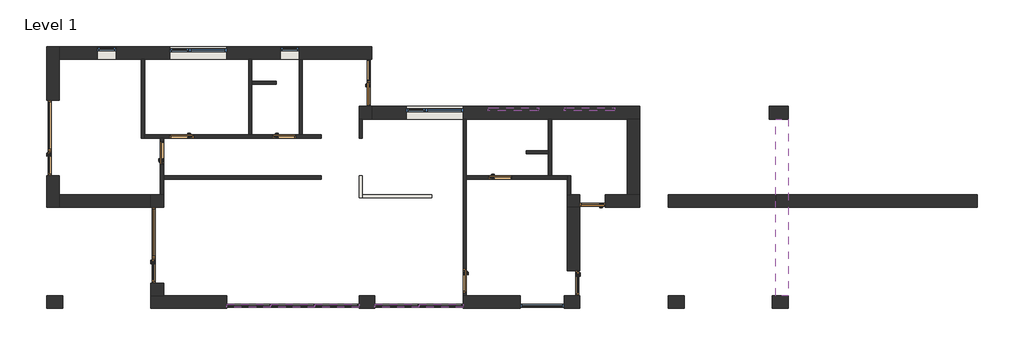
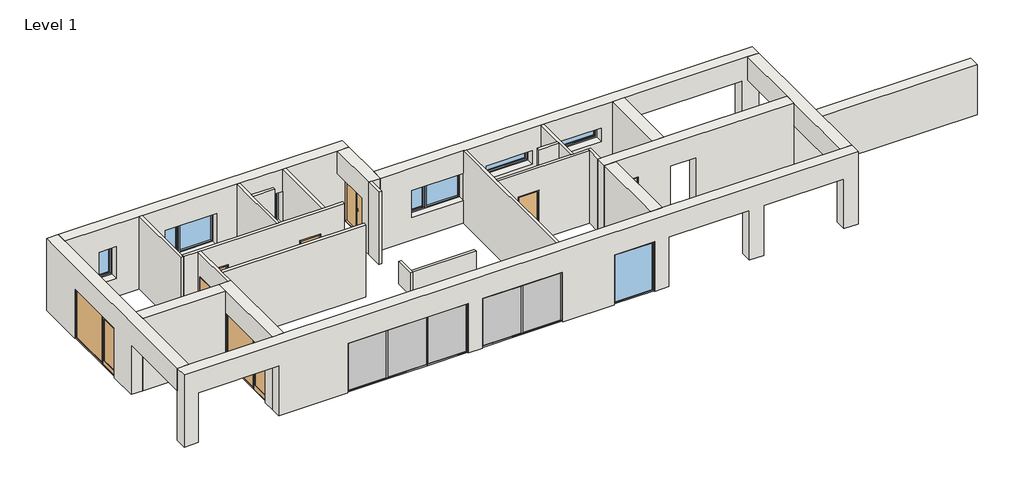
# One storey: 27 walls, 17 members, 10 doors, 7 windows, 5 plates.
"""IFC4 building model written with IfcOpenShell, lengths in millimetres."""

from ifc_helpers import new_model, si_unit, origin, origin_with_axes, place, context, project, spatial, polyline, outline, extrude, faceted_brep, transform, mapped, element, save
from components import door_1800x2200_mm_7a9b0269, ext_door_window_assembly_glass_2880x2200_mm_ebeafb6b, ext_single_flush_out_glass_960x2200_mm_f4f0ea2b, ext_single_flush1_960x2200_mm_7c25dc53, int_single_flush1_900x2200_mm_083ae047, int_single_flush1_900x2200_mm_924e3177, rectangular_mullion_exterior_50x115mm_b31c03e9, rectangular_mullion_exterior_50x115mm_eaa21abb, rectangular_mullion_exterior_50x115mm_593a1a29, system_panel_exterior_glass_22mm_baca3ab9, system_panel_exterior_glass_22mm_266c4f93, fixed_1680x2200_mm_e3bfc0e5, single_light_top_hinged_1920x600_dd11e4f9, single_light_720x1400_mm_50d61ae6, window_assembly_individual_2160x1200_mm_f898fd7d, window_assembly_individual_2160x1400_mm_6f070fa8

model = new_model("IFC4")

# Units and contexts
model_context = context("Model", 3, world=origin())
ifc_project = project(units=[si_unit("LENGTHUNIT", "METRE", prefix="MILLI")], contexts=[model_context])

# Site, building, storey
site = spatial("IfcSite", under=ifc_project)
building = spatial("IfcBuilding", under=site)
storey = spatial("IfcBuildingStorey", under=building, Name="Level 1", Elevation=0.0)

# Doors
placement = place(None, origin())
door_1800x2200_mm_shape = door_1800x2200_mm_7a9b0269(model_context)
element("IfcDoor", 1, ObjectType="Ext. Door inw. Window Assembly : 1800x2200 mm", at=placement, inside=storey, context=model_context, shape_type="MappedRepresentation", body=[
    mapped(door_1800x2200_mm_shape, transform((12120.0, 8580.0, 0.0), x_axis=(0.0, -1.0, 0.0), y_axis=(1.0, 0.0, 0.0), z_axis=(0.0, 0.0, 1.0))),
])
ext_door_window_assembly_glass_2880x2200_mm_shape = ext_door_window_assembly_glass_2880x2200_mm_ebeafb6b(model_context)
element("IfcDoor", 2, ObjectType="Ext. Door Window Assembly - Glass : 2880x2200 mm", at=placement, inside=storey, context=model_context, shape_type="MappedRepresentation", body=[
    mapped(ext_door_window_assembly_glass_2880x2200_mm_shape, transform((4200.0, 2400.0, 0.0), x_axis=(0.0, -1.0, 0.0), y_axis=(1.0, 0.0, 0.0), z_axis=(0.0, 0.0, 1.0))),
])
element("IfcDoor", 3, ObjectType="Ext. Door Window Assembly - Glass : 2880x2200 mm", at=placement, inside=storey, context=model_context, shape_type="MappedRepresentation", body=[
    mapped(ext_door_window_assembly_glass_2880x2200_mm_shape, transform((240.0, 6480.0, 0.0), x_axis=(0.0, -1.0, 0.0), y_axis=(1.0, 0.0, 0.0), z_axis=(0.0, 0.0, 1.0))),
])
ext_single_flush_out_glass_960x2200_mm_shape = ext_single_flush_out_glass_960x2200_mm_f4f0ea2b(model_context)
element("IfcDoor", 4, ObjectType="Ext. Single-Flush out - Glass : 960x2200 mm", at=placement, inside=storey, context=model_context, shape_type="MappedRepresentation", body=[
    mapped(ext_single_flush_out_glass_960x2200_mm_shape, transform((20040.0, 960.0, 0.0), x_axis=(0.0, -1.0, 0.0), y_axis=(1.0, 0.0, 0.0), z_axis=(0.0, 0.0, 1.0))),
])
ext_single_flush1_960x2200_mm_shape = ext_single_flush1_960x2200_mm_7c25dc53(model_context)
element("IfcDoor", 5, ObjectType="Ext. Single-Flush1 : 960x2200 mm", at=placement, inside=storey, context=model_context, shape_type="MappedRepresentation", body=[
    mapped(ext_single_flush1_960x2200_mm_shape, transform((20760.0, 4080.0, 0.0), x_axis=(-1.0, 0.0, 0.0), y_axis=(0.0, -1.0, 0.0), z_axis=(0.0, 0.0, 1.0))),
])
int_single_flush1_900x2200_mm_shape = int_single_flush1_900x2200_mm_083ae047(model_context)
element("IfcDoor", 6, ObjectType="Int. Single-Flush1 : 900x2200 mm", at=placement, inside=storey, context=model_context, shape_type="MappedRepresentation", body=[
    mapped(int_single_flush1_900x2200_mm_shape, transform((4380.0, 5910.0, 0.0), x_axis=(0.0, 1.0, 0.0), y_axis=(-1.0, 0.0, 0.0), z_axis=(0.0, 0.0, 1.0))),
])
element("IfcDoor", 7, ObjectType="Int. Single-Flush1 : 900x2200 mm", at=placement, inside=storey, context=model_context, shape_type="MappedRepresentation", body=[
    mapped(int_single_flush1_900x2200_mm_shape, transform((9030.0, 6540.0, 0.0), x_axis=(1.0, 0.0, 0.0), y_axis=(0.0, 1.0, 0.0), z_axis=(0.0, 0.0, 1.0))),
])
element("IfcDoor", 8, ObjectType="Int. Single-Flush1 : 900x2200 mm", at=placement, inside=storey, context=model_context, shape_type="MappedRepresentation", body=[
    mapped(int_single_flush1_900x2200_mm_shape, transform((17250.0, 4980.0, 0.0), x_axis=(1.0, 0.0, 0.0), y_axis=(0.0, 1.0, 0.0), z_axis=(0.0, 0.0, 1.0))),
])
element("IfcDoor", 9, ObjectType="Int. Single-Flush1 : 900x2200 mm", at=placement, inside=storey, context=model_context, shape_type="MappedRepresentation", body=[
    mapped(int_single_flush1_900x2200_mm_shape, transform((15900.0, 1050.0, 0.0), x_axis=(0.0, -1.0, 0.0), y_axis=(1.0, 0.0, 0.0), z_axis=(0.0, 0.0, 1.0))),
])
int_single_flush1_900x2200_mm_2_shape = int_single_flush1_900x2200_mm_924e3177(model_context)
element("IfcDoor", 10, ObjectType="Int. Single-Flush1 : 900x2200 mm", at=placement, inside=storey, context=model_context, shape_type="MappedRepresentation", body=[
    mapped(int_single_flush1_900x2200_mm_2_shape, transform((5130.0, 6540.0, 0.0), x_axis=(-1.0, 0.0, 0.0), y_axis=(0.0, -1.0, 0.0), z_axis=(0.0, 0.0, 1.0))),
])

# Members
rectangular_mullion_exterior_50x115mm_shape = rectangular_mullion_exterior_50x115mm_b31c03e9(model_context)
element("IfcMember", 11, ObjectType="Rectangular Mullion : Exterior - 50x115mm", at=placement, inside=storey, context=model_context, shape_type="MappedRepresentation", body=[
    mapped(rectangular_mullion_exterior_50x115mm_shape, transform((6840.0, 50.0, 2200.0), x_axis=(0.0, 0.0, 1.0), y_axis=(0.0, 1.0, 0.0), z_axis=(-1.0, 0.0, 0.0))),
])
element("IfcMember", 12, ObjectType="Rectangular Mullion : Exterior - 50x115mm", at=placement, inside=storey, context=model_context, shape_type="MappedRepresentation", body=[
    mapped(rectangular_mullion_exterior_50x115mm_shape, transform((12480.0, 50.0, 2200.0), x_axis=(0.0, 0.0, 1.0), y_axis=(0.0, 1.0, 0.0), z_axis=(-1.0, 0.0, 0.0))),
])
element("IfcMember", 13, ObjectType="Rectangular Mullion : Exterior - 50x115mm", at=placement, inside=storey, context=model_context, shape_type="MappedRepresentation", body=[
    mapped(rectangular_mullion_exterior_50x115mm_shape, transform((11880.0, 50.0, 0.0), x_axis=(0.0, 0.0, -1.0), y_axis=(0.0, 1.0, 0.0), z_axis=(1.0, 0.0, 0.0))),
])
element("IfcMember", 14, ObjectType="Rectangular Mullion : Exterior - 50x115mm", at=placement, inside=storey, context=model_context, shape_type="MappedRepresentation", body=[
    mapped(rectangular_mullion_exterior_50x115mm_shape, transform((15840.0, 50.0, 0.0), x_axis=(0.0, 0.0, -1.0), y_axis=(0.0, 1.0, 0.0), z_axis=(1.0, 0.0, 0.0))),
])
rectangular_mullion_exterior_50x115mm_2_shape = rectangular_mullion_exterior_50x115mm_eaa21abb(model_context)
element("IfcMember", 15, ObjectType="Rectangular Mullion : Exterior - 50x115mm", at=placement, inside=storey, context=model_context, shape_type="MappedRepresentation", body=[
    mapped(rectangular_mullion_exterior_50x115mm_2_shape, transform((8520.0, 50.0, 50.0), x_axis=(-1.0, 0.0, 0.0), y_axis=(0.0, 1.0, 0.0), z_axis=(0.0, 0.0, -1.0))),
])
element("IfcMember", 16, ObjectType="Rectangular Mullion : Exterior - 50x115mm", at=placement, inside=storey, context=model_context, shape_type="MappedRepresentation", body=[
    mapped(rectangular_mullion_exterior_50x115mm_2_shape, transform((10200.0, 50.0, 50.0), x_axis=(-1.0, 0.0, 0.0), y_axis=(0.0, 1.0, 0.0), z_axis=(0.0, 0.0, -1.0))),
])
element("IfcMember", 17, ObjectType="Rectangular Mullion : Exterior - 50x115mm", at=placement, inside=storey, context=model_context, shape_type="MappedRepresentation", body=[
    mapped(rectangular_mullion_exterior_50x115mm_2_shape, transform((14160.0, 50.0, 50.0), x_axis=(-1.0, 0.0, 0.0), y_axis=(0.0, 1.0, 0.0), z_axis=(0.0, 0.0, -1.0))),
])
element("IfcMember", 18, ObjectType="Rectangular Mullion : Exterior - 50x115mm", at=placement, inside=storey, context=model_context, shape_type="MappedRepresentation", body=[
    mapped(rectangular_mullion_exterior_50x115mm_shape, transform((8520.0, 50.0, 0.0), x_axis=(0.0, 0.0, -1.0), y_axis=(0.0, 1.0, 0.0), z_axis=(1.0, 0.0, 0.0))),
])
element("IfcMember", 19, ObjectType="Rectangular Mullion : Exterior - 50x115mm", at=placement, inside=storey, context=model_context, shape_type="MappedRepresentation", body=[
    mapped(rectangular_mullion_exterior_50x115mm_shape, transform((14160.0, 50.0, 0.0), x_axis=(0.0, 0.0, -1.0), y_axis=(0.0, 1.0, 0.0), z_axis=(1.0, 0.0, 0.0))),
])
element("IfcMember", 20, ObjectType="Rectangular Mullion : Exterior - 50x115mm", at=placement, inside=storey, context=model_context, shape_type="MappedRepresentation", body=[
    mapped(rectangular_mullion_exterior_50x115mm_shape, transform((10200.0, 50.0, 0.0), x_axis=(0.0, 0.0, -1.0), y_axis=(0.0, 1.0, 0.0), z_axis=(1.0, 0.0, 0.0))),
])
element("IfcMember", 21, ObjectType="Rectangular Mullion : Exterior - 50x115mm", at=placement, inside=storey, context=model_context, shape_type="MappedRepresentation", body=[
    mapped(rectangular_mullion_exterior_50x115mm_shape, transform((8520.0, 50.0, 2200.0), x_axis=(0.0, 0.0, 1.0), y_axis=(0.0, 1.0, 0.0), z_axis=(-1.0, 0.0, 0.0))),
])
element("IfcMember", 22, ObjectType="Rectangular Mullion : Exterior - 50x115mm", at=placement, inside=storey, context=model_context, shape_type="MappedRepresentation", body=[
    mapped(rectangular_mullion_exterior_50x115mm_shape, transform((10200.0, 50.0, 2200.0), x_axis=(0.0, 0.0, 1.0), y_axis=(0.0, 1.0, 0.0), z_axis=(-1.0, 0.0, 0.0))),
])
element("IfcMember", 23, ObjectType="Rectangular Mullion : Exterior - 50x115mm", at=placement, inside=storey, context=model_context, shape_type="MappedRepresentation", body=[
    mapped(rectangular_mullion_exterior_50x115mm_shape, transform((14160.0, 50.0, 2200.0), x_axis=(0.0, 0.0, 1.0), y_axis=(0.0, 1.0, 0.0), z_axis=(-1.0, 0.0, 0.0))),
])
rectangular_mullion_exterior_50x115mm_3_shape = rectangular_mullion_exterior_50x115mm_593a1a29(model_context)
element("IfcMember", 24, ObjectType="Rectangular Mullion : Exterior - 50x115mm", at=placement, inside=storey, context=model_context, shape_type="MappedRepresentation", body=[
    mapped(rectangular_mullion_exterior_50x115mm_3_shape, transform((11880.0, 50.0, 2150.0), x_axis=(1.0, 0.0, 0.0), y_axis=(0.0, 1.0, 0.0), z_axis=(0.0, 0.0, 1.0))),
])
element("IfcMember", 25, ObjectType="Rectangular Mullion : Exterior - 50x115mm", at=placement, inside=storey, context=model_context, shape_type="MappedRepresentation", body=[
    mapped(rectangular_mullion_exterior_50x115mm_3_shape, transform((15840.0, 50.0, 2150.0), x_axis=(1.0, 0.0, 0.0), y_axis=(0.0, 1.0, 0.0), z_axis=(0.0, 0.0, 1.0))),
])
element("IfcMember", 26, ObjectType="Rectangular Mullion : Exterior - 50x115mm", at=placement, inside=storey, context=model_context, shape_type="MappedRepresentation", body=[
    mapped(rectangular_mullion_exterior_50x115mm_3_shape, transform((6840.0, 50.0, 50.0), x_axis=(-1.0, 0.0, 0.0), y_axis=(0.0, 1.0, 0.0), z_axis=(0.0, 0.0, -1.0))),
])
element("IfcMember", 27, ObjectType="Rectangular Mullion : Exterior - 50x115mm", at=placement, inside=storey, context=model_context, shape_type="MappedRepresentation", body=[
    mapped(rectangular_mullion_exterior_50x115mm_3_shape, transform((12480.0, 50.0, 50.0), x_axis=(-1.0, 0.0, 0.0), y_axis=(0.0, 1.0, 0.0), z_axis=(0.0, 0.0, -1.0))),
])

# Plates
system_panel_exterior_glass_22mm_shape = system_panel_exterior_glass_22mm_baca3ab9(model_context)
element("IfcPlate", 28, ObjectType="System Panel : Exterior - Glass 22mm", at=placement, inside=storey, context=model_context, shape_type="MappedRepresentation", body=[
    mapped(system_panel_exterior_glass_22mm_shape, transform((11027.5, 50.0, 50.0), x_axis=(-1.0, 0.0, 0.0), y_axis=(0.0, -1.0, 0.0), z_axis=(0.0, 0.0, 1.0))),
])
element("IfcPlate", 29, ObjectType="System Panel : Exterior - Glass 22mm", at=placement, inside=storey, context=model_context, shape_type="MappedRepresentation", body=[
    mapped(system_panel_exterior_glass_22mm_shape, transform((7692.5, 50.0, 50.0), x_axis=(-1.0, 0.0, 0.0), y_axis=(0.0, -1.0, 0.0), z_axis=(0.0, 0.0, 1.0))),
])
element("IfcPlate", 30, ObjectType="System Panel : Exterior - Glass 22mm", at=placement, inside=storey, context=model_context, shape_type="MappedRepresentation", body=[
    mapped(system_panel_exterior_glass_22mm_shape, transform((14987.5, 50.0, 50.0), x_axis=(-1.0, 0.0, 0.0), y_axis=(0.0, -1.0, 0.0), z_axis=(0.0, 0.0, 1.0))),
])
element("IfcPlate", 31, ObjectType="System Panel : Exterior - Glass 22mm", at=placement, inside=storey, context=model_context, shape_type="MappedRepresentation", body=[
    mapped(system_panel_exterior_glass_22mm_shape, transform((13332.5, 50.0, 50.0), x_axis=(-1.0, 0.0, 0.0), y_axis=(0.0, -1.0, 0.0), z_axis=(0.0, 0.0, 1.0))),
])
system_panel_exterior_glass_22mm_2_shape = system_panel_exterior_glass_22mm_266c4f93(model_context)
element("IfcPlate", 32, ObjectType="System Panel : Exterior - Glass 22mm", at=placement, inside=storey, context=model_context, shape_type="MappedRepresentation", body=[
    mapped(system_panel_exterior_glass_22mm_2_shape, transform((9360.0, 50.0, 50.0), x_axis=(-1.0, 0.0, 0.0), y_axis=(0.0, -1.0, 0.0), z_axis=(0.0, 0.0, 1.0))),
])

# Walls
element("IfcWall", 33, ObjectType="Generic - 120mm (Interior)", at=placement, inside=storey, context=model_context, shape_type="Brep", body=[
    faceted_brep([(3600.0, 9480.0, 0.0), (3600.0, 6480.0, 0.0), (3600.0, 6480.0, 3200.0), (3600.0, 9480.0, 3200.0), (3720.0, 9480.0, 0.0), (3720.0, 9480.0, 3200.0), (3720.0, 6600.0, 3200.0), (3720.0, 6480.0, 3200.0), (3720.0, 6480.0, 0.0), (3720.0, 6600.0, 0.0)], [[[0, 1, 2, 3]], [[4, 5, 6, 7, 8, 9]], [[1, 0, 4, 9, 8]], [[3, 2, 7, 6, 5]], [[2, 1, 8, 7]], [[0, 3, 5, 4]]]),
])
element("IfcWall", 34, ObjectType="Generic - 120mm (Interior)", at=placement, inside=storey, context=model_context, shape_type="Brep", body=[
    faceted_brep([(10440.0, 6480.0, 0.0), (10440.0, 6480.0, 3200.0), (4440.0, 6480.0, 3200.0), (4320.0, 6480.0, 3200.0), (3720.0, 6480.0, 3200.0), (3720.0, 6480.0, 0.0), (4320.0, 6480.0, 0.0), (4440.0, 6480.0, 0.0), (4680.0, 6480.0, 0.0), (4680.0, 6480.0, 2200.0), (5580.0, 6480.0, 2200.0), (5580.0, 6480.0, 0.0), (8580.0, 6480.0, 0.0), (8580.0, 6480.0, 2200.0), (9480.0, 6480.0, 2200.0), (9480.0, 6480.0, 0.0), (10440.0, 6600.0, 3200.0), (10440.0, 6600.0, 0.0), (9720.0, 6600.0, 0.0), (9600.0, 6600.0, 0.0), (9480.0, 6600.0, 0.0), (9480.0, 6600.0, 2200.0), (8580.0, 6600.0, 2200.0), (8580.0, 6600.0, 0.0), (7800.0, 6600.0, 0.0), (7680.0, 6600.0, 0.0), (5580.0, 6600.0, 0.0), (5580.0, 6600.0, 2200.0), (4680.0, 6600.0, 2200.0), (4680.0, 6600.0, 0.0), (3720.0, 6600.0, 0.0), (3720.0, 6600.0, 3200.0), (7680.0, 6600.0, 3200.0), (7800.0, 6600.0, 3200.0), (9600.0, 6600.0, 3200.0), (9720.0, 6600.0, 3200.0)], [[[0, 1, 2, 3, 4, 5, 6, 7, 8, 9, 10, 11, 12, 13, 14, 15]], [[16, 17, 18, 19, 20, 21, 22, 23, 24, 25, 26, 27, 28, 29, 30, 31, 32, 33, 34, 35]], [[17, 0, 15, 20, 19, 18]], [[5, 30, 29, 8, 7, 6]], [[23, 12, 11, 26, 25, 24]], [[1, 0, 17, 16]], [[4, 3, 2, 1, 16, 35, 34, 33, 32, 31]], [[5, 4, 31, 30]], [[14, 21, 20, 15]], [[21, 14, 13, 22]], [[22, 13, 12, 23]], [[28, 9, 8, 29]], [[9, 28, 27, 10]], [[10, 27, 26, 11]]]),
])
element("IfcWall", 35, ObjectType="Generic - 120mm (Interior)", at=placement, inside=storey, context=model_context, shape_type="Brep", body=[
    faceted_brep([(4440.0, 6480.0, 3200.0), (4440.0, 5040.0, 3200.0), (4440.0, 4920.0, 3200.0), (4440.0, 4320.0, 3200.0), (4440.0, 4320.0, 0.0), (4440.0, 4920.0, 0.0), (4440.0, 5040.0, 0.0), (4440.0, 5460.0, 0.0), (4440.0, 5460.0, 2200.0), (4440.0, 6360.0, 2200.0), (4440.0, 6360.0, 0.0), (4440.0, 6480.0, 0.0), (4320.0, 4320.0, 3200.0), (4320.0, 6480.0, 3200.0), (4320.0, 6480.0, 0.0), (4320.0, 6360.0, 0.0), (4320.0, 6360.0, 2200.0), (4320.0, 5460.0, 2200.0), (4320.0, 5460.0, 0.0), (4320.0, 4320.0, 0.0)], [[[0, 1, 2, 3, 4, 5, 6, 7, 8, 9, 10, 11]], [[12, 13, 14, 15, 16, 17, 18, 19]], [[14, 11, 10, 15]], [[4, 19, 18, 7, 6, 5]], [[3, 2, 1, 0, 13, 12]], [[0, 11, 14, 13]], [[4, 3, 12, 19]], [[9, 16, 15, 10]], [[16, 9, 8, 17]], [[17, 8, 7, 18]]]),
])
element("IfcWall", 36, ObjectType="Generic - 120mm (Interior)", at=placement, inside=storey, context=model_context, shape_type="Brep", body=[
    faceted_brep([(7800.0, 6600.0, 0.0), (7800.0, 8520.0, 0.0), (7800.0, 8640.0, 0.0), (7800.0, 9480.0, 0.0), (7800.0, 9480.0, 3200.0), (7800.0, 8640.0, 3200.0), (7800.0, 8520.0, 3200.0), (7800.0, 6600.0, 3200.0), (7680.0, 6600.0, 0.0), (7680.0, 6600.0, 3200.0), (7680.0, 9480.0, 3200.0), (7680.0, 9480.0, 0.0)], [[[0, 1, 2, 3, 4, 5, 6, 7]], [[8, 9, 10, 11]], [[3, 2, 1, 0, 8, 11]], [[7, 6, 5, 4, 10, 9]], [[0, 7, 9, 8]], [[4, 3, 11, 10]]]),
])
element("IfcWall", 37, ObjectType="Generic - 120mm (Interior)", at=placement, inside=storey, context=model_context, shape_type="SweptSolid", body=[
    extrude(outline(polyline([(9720.0, 9480.0), (9720.0, 6600.0), (9600.0, 6600.0), (9600.0, 9480.0), (9720.0, 9480.0)])), origin_with_axes(), (0.0, 0.0, 1.0), 3200.0),
])
element("IfcWall", 38, ObjectType="Generic - 120mm (Interior)", at=placement, inside=storey, context=model_context, shape_type="Brep", body=[
    faceted_brep([(15960.0, 7200.0, 3200.0), (15960.0, 5040.0, 3200.0), (15960.0, 4920.0, 3200.0), (15960.0, 480.0, 3200.0), (15960.0, 480.0, 0.0), (15960.0, 600.0, 0.0), (15960.0, 600.0, 2200.0), (15960.0, 1500.0, 2200.0), (15960.0, 1500.0, 0.0), (15960.0, 4920.0, 0.0), (15960.0, 5040.0, 0.0), (15960.0, 7200.0, 0.0), (15840.0, 480.0, 3200.0), (15840.0, 7200.0, 3200.0), (15840.0, 7200.0, 2200.0), (15840.0, 7200.0, 1000.0), (15840.0, 7200.0, 0.0), (15840.0, 1500.0, 0.0), (15840.0, 1500.0, 2200.0), (15840.0, 600.0, 2200.0), (15840.0, 600.0, 0.0), (15840.0, 480.0, 0.0), (15840.0, 480.0, 2200.0)], [[[0, 1, 2, 3, 4, 5, 6, 7, 8, 9, 10, 11]], [[12, 13, 14, 15, 16, 17, 18, 19, 20, 21, 22]], [[4, 21, 20, 5]], [[16, 11, 10, 9, 8, 17]], [[3, 2, 1, 0, 13, 12]], [[0, 11, 16, 15, 14, 13]], [[4, 3, 12, 22, 21]], [[19, 6, 5, 20]], [[6, 19, 18, 7]], [[7, 18, 17, 8]]]),
])
element("IfcWall", 39, ObjectType="Generic - 120mm (Interior)", at=placement, inside=storey, context=model_context, shape_type="Brep", body=[
    faceted_brep([(19920.0, 4320.0, 0.0), (19920.0, 5040.0, 0.0), (19920.0, 5040.0, 3200.0), (19920.0, 4320.0, 3200.0), (19800.0, 4320.0, 0.0), (19800.0, 4320.0, 3200.0), (19800.0, 4920.0, 3200.0), (19800.0, 5040.0, 3200.0), (19800.0, 5040.0, 0.0), (19800.0, 4920.0, 0.0)], [[[0, 1, 2, 3]], [[4, 5, 6, 7, 8, 9]], [[1, 0, 4, 9, 8]], [[3, 2, 7, 6, 5]], [[2, 1, 8, 7]], [[0, 3, 5, 4]]]),
])
element("IfcWall", 40, ObjectType="Generic - 120mm (Interior)", at=placement, inside=storey, context=model_context, shape_type="Brep", body=[
    faceted_brep([(15960.0, 5040.0, 3200.0), (19080.0, 5040.0, 3200.0), (19200.0, 5040.0, 3200.0), (19800.0, 5040.0, 3200.0), (19800.0, 5040.0, 0.0), (19200.0, 5040.0, 0.0), (19080.0, 5040.0, 0.0), (17700.0, 5040.0, 0.0), (17700.0, 5040.0, 2200.0), (16800.0, 5040.0, 2200.0), (16800.0, 5040.0, 0.0), (15960.0, 5040.0, 0.0), (19800.0, 4920.0, 3200.0), (15960.0, 4920.0, 3200.0), (15960.0, 4920.0, 0.0), (16800.0, 4920.0, 0.0), (16800.0, 4920.0, 2200.0), (17700.0, 4920.0, 2200.0), (17700.0, 4920.0, 0.0), (19800.0, 4920.0, 0.0)], [[[0, 1, 2, 3, 4, 5, 6, 7, 8, 9, 10, 11]], [[12, 13, 14, 15, 16, 17, 18, 19]], [[4, 19, 18, 7, 6, 5]], [[14, 11, 10, 15]], [[3, 2, 1, 0, 13, 12]], [[4, 3, 12, 19]], [[0, 11, 14, 13]], [[17, 8, 7, 18]], [[8, 17, 16, 9]], [[9, 16, 15, 10]]]),
])
element("IfcWall", 41, ObjectType="Generic - 120mm (Interior)", at=placement, inside=storey, context=model_context, shape_type="Brep", body=[
    faceted_brep([(19200.0, 5040.0, 0.0), (19200.0, 7200.0, 0.0), (19200.0, 7200.0, 3200.0), (19200.0, 5040.0, 3200.0), (19080.0, 5040.0, 0.0), (19080.0, 5040.0, 3200.0), (19080.0, 5880.0, 3200.0), (19080.0, 6000.0, 3200.0), (19080.0, 7200.0, 3200.0), (19080.0, 7200.0, 0.0), (19080.0, 6000.0, 0.0), (19080.0, 5880.0, 0.0)], [[[0, 1, 2, 3]], [[4, 5, 6, 7, 8, 9, 10, 11]], [[1, 0, 4, 11, 10, 9]], [[3, 2, 8, 7, 6, 5]], [[0, 3, 5, 4]], [[2, 1, 9, 8]]]),
])
element("IfcWall", 42, ObjectType="Generic - 120mm (Interior)", at=placement, inside=storey, context=model_context, shape_type="SweptSolid", body=[
    extrude(outline(polyline([(18240.0, 6000.0), (19080.0, 6000.0), (19080.0, 5880.0), (18240.0, 5880.0), (18240.0, 6000.0)])), origin_with_axes(), (0.0, 0.0, 1.0), 3200.0),
])
element("IfcWall", 43, ObjectType="Generic - 120mm (Interior)", at=placement, inside=storey, context=model_context, shape_type="SweptSolid", body=[
    extrude(outline(polyline([(8720.0, 8520.0), (7800.0, 8520.0), (7800.0, 8640.0), (8720.0, 8640.0), (8720.0, 8520.0)])), origin_with_axes(), (0.0, 0.0, 1.0), 3200.0),
])
element("IfcWall", 44, ObjectType="Generic - 120mm (Interior)", at=placement, inside=storey, context=model_context, shape_type="SweptSolid", body=[
    extrude(outline(polyline([(10440.0, 4920.0), (4440.0, 4920.0), (4440.0, 5040.0), (10440.0, 5040.0), (10440.0, 4920.0)])), origin_with_axes(), (0.0, 0.0, 1.0), 3200.0),
])
element("IfcWall", 45, ObjectType="Generic - 120mm (Interior)", at=placement, inside=storey, context=model_context, shape_type="Brep", body=[
    faceted_brep([(11880.0, 5040.0, 0.0), (11880.0, 4200.0, 0.0), (11880.0, 4200.0, 1000.0), (11880.0, 5040.0, 1000.0), (12000.0, 5040.0, 0.0), (12000.0, 5040.0, 1000.0), (12000.0, 4320.0, 1000.0), (12000.0, 4200.0, 1000.0), (12000.0, 4200.0, 0.0), (12000.0, 4320.0, 0.0)], [[[0, 1, 2, 3]], [[4, 5, 6, 7, 8, 9]], [[1, 0, 4, 9, 8]], [[3, 2, 7, 6, 5]], [[0, 3, 5, 4]], [[2, 1, 8, 7]]]),
])
element("IfcWall", 46, ObjectType="Generic - 120mm (Interior)", at=placement, inside=storey, context=model_context, shape_type="SweptSolid", body=[
    extrude(outline(polyline([(14640.0, 4200.0), (12000.0, 4200.0), (12000.0, 4320.0), (14640.0, 4320.0), (14640.0, 4200.0)])), origin_with_axes(), (0.0, 0.0, 1.0), 1000.0),
])
element("IfcWall", 47, ObjectType="Generic - 120mm (Interior)", at=placement, inside=storey, context=model_context, shape_type="SweptSolid", body=[
    extrude(outline(polyline([(11880.0, 6480.0), (11880.0, 7200.0), (12000.0, 7200.0), (12000.0, 6480.0), (11880.0, 6480.0)])), origin_with_axes(), (0.0, 0.0, 1.0), 3200.0),
])
element("IfcWall", 48, ObjectType="Generic - 480mm (Exterior)", at=placement, inside=storey, context=model_context, shape_type="Brep", body=[
    faceted_brep([(480.0, 9960.0, 3200.0), (480.0, 9480.0, 3200.0), (480.0, 4320.0, 3200.0), (480.0, 3840.0, 3200.0), (480.0, 480.0, 3200.0), (480.0, 480.0, 2200.0), (480.0, 3840.0, 2200.0), (480.0, 3840.0, 0.0), (480.0, 4320.0, 0.0), (480.0, 5040.0, 0.0), (480.0, 5040.0, 2212.0), (480.0, 7920.0, 2212.0), (480.0, 7920.0, 0.0), (480.0, 9480.0, 0.0), (480.0, 9960.0, 0.0), (0.0, 480.0, 3200.0), (0.0, 9960.0, 3200.0), (0.0, 9960.0, 0.0), (0.0, 7920.0, 0.0), (0.0, 7920.0, 2212.0), (0.0, 5040.0, 2212.0), (0.0, 5040.0, 0.0), (0.0, 3840.0, 0.0), (0.0, 3840.0, 2200.0), (0.0, 480.0, 2200.0)], [[[0, 1, 2, 3, 4, 5, 6, 7, 8, 9, 10, 11, 12, 13, 14]], [[15, 16, 17, 18, 19, 20, 21, 22, 23, 24]], [[0, 14, 17, 16]], [[20, 10, 9, 21]], [[10, 20, 19, 11]], [[11, 19, 18, 12]], [[17, 14, 13, 12, 18]], [[7, 22, 21, 9, 8]], [[4, 3, 2, 1, 0, 16, 15]], [[6, 5, 24, 23]], [[7, 6, 23, 22]], [[5, 4, 15, 24]]]),
])
element("IfcWall", 49, ObjectType="Generic - 480mm (Exterior)", at=placement, inside=storey, context=model_context, shape_type="Brep", body=[
    faceted_brep([(480.0, 9480.0, 0.0), (3600.0, 9480.0, 0.0), (3720.0, 9480.0, 0.0), (7680.0, 9480.0, 0.0), (7800.0, 9480.0, 0.0), (9600.0, 9480.0, 0.0), (9720.0, 9480.0, 0.0), (12360.0, 9480.0, 0.0), (12360.0, 9480.0, 2200.0), (12360.0, 9480.0, 3200.0), (11880.0, 9480.0, 3200.0), (9720.0, 9480.0, 3200.0), (9600.0, 9480.0, 3200.0), (7800.0, 9480.0, 3200.0), (7680.0, 9480.0, 3200.0), (3720.0, 9480.0, 3200.0), (3600.0, 9480.0, 3200.0), (480.0, 9480.0, 3200.0), (6840.0, 9480.0, 800.0), (4680.0, 9480.0, 800.0), (4680.0, 9480.0, 2200.0), (6840.0, 9480.0, 2200.0), (8880.0, 9480.0, 800.0), (8880.0, 9480.0, 2200.0), (9600.0, 9480.0, 2200.0), (9600.0, 9480.0, 800.0), (1920.0, 9480.0, 800.0), (1920.0, 9480.0, 2200.0), (2640.0, 9480.0, 2200.0), (2640.0, 9480.0, 800.0), (480.0, 9960.0, 0.0), (480.0, 9960.0, 3200.0), (12360.0, 9960.0, 3200.0), (12360.0, 9960.0, 0.0), (6840.0, 9960.0, 800.0), (6840.0, 9960.0, 2200.0), (4680.0, 9960.0, 2200.0), (4680.0, 9960.0, 800.0), (8880.0, 9960.0, 800.0), (9600.0, 9960.0, 800.0), (9600.0, 9960.0, 2200.0), (8880.0, 9960.0, 2200.0), (1920.0, 9960.0, 800.0), (2640.0, 9960.0, 800.0), (2640.0, 9960.0, 2200.0), (1920.0, 9960.0, 2200.0)], [[[0, 1, 2, 3, 4, 5, 6, 7, 8, 9, 10, 11, 12, 13, 14, 15, 16, 17], [18, 19, 20, 21], [22, 23, 24, 25], [26, 27, 28, 29]], [[30, 31, 32, 33], [34, 35, 36, 37], [38, 39, 40, 41], [42, 43, 44, 45]], [[7, 6, 5, 4, 3, 2, 1, 0, 30, 33]], [[17, 16, 15, 14, 13, 12, 11, 10, 9, 32, 31]], [[0, 17, 31, 30]], [[9, 8, 7, 33, 32]], [[35, 34, 18, 21]], [[36, 35, 21, 20]], [[37, 36, 20, 19]], [[34, 37, 19, 18]], [[23, 22, 38, 41]], [[24, 23, 41, 40]], [[25, 24, 40, 39]], [[22, 25, 39, 38]], [[27, 26, 42, 45]], [[28, 27, 45, 44]], [[29, 28, 44, 43]], [[26, 29, 43, 42]]]),
])
element("IfcWall", 50, ObjectType="Generic - 480mm (Exterior)", at=placement, inside=storey, context=model_context, shape_type="Brep", body=[
    faceted_brep([(11880.0, 7200.0, 3200.0), (11880.0, 9480.0, 3200.0), (11880.0, 9480.0, 2200.0), (11880.0, 7680.0, 2200.0), (11880.0, 7680.0, 0.0), (11880.0, 7200.0, 0.0), (12360.0, 9480.0, 3200.0), (12360.0, 7680.0, 3200.0), (12360.0, 7200.0, 3200.0), (12360.0, 7200.0, 0.0), (12360.0, 7680.0, 0.0), (12360.0, 7680.0, 2200.0), (12360.0, 9480.0, 2200.0)], [[[0, 1, 2, 3, 4, 5]], [[6, 7, 8, 9, 10, 11, 12]], [[9, 5, 4, 10]], [[1, 0, 8, 7, 6]], [[1, 6, 12, 2]], [[3, 11, 10, 4]], [[11, 3, 2, 12]], [[0, 5, 9, 8]]]),
])
element("IfcWall", 51, ObjectType="Generic - 480mm (Exterior)", at=placement, inside=storey, context=model_context, shape_type="Brep", body=[
    faceted_brep([(12360.0, 7200.0, 0.0), (15840.0, 7200.0, 0.0), (15960.0, 7200.0, 0.0), (19080.0, 7200.0, 0.0), (19200.0, 7200.0, 0.0), (22080.0, 7200.0, 0.0), (22560.0, 7200.0, 0.0), (22560.0, 7200.0, 2200.0), (27480.0, 7200.0, 2200.0), (27480.0, 7200.0, 0.0), (28200.0, 7200.0, 0.0), (28200.0, 7200.0, 2200.0), (28200.0, 7200.0, 3200.0), (27720.0, 7200.0, 3200.0), (22560.0, 7200.0, 3200.0), (22080.0, 7200.0, 3200.0), (19200.0, 7200.0, 3200.0), (19080.0, 7200.0, 3200.0), (15960.0, 7200.0, 3200.0), (15840.0, 7200.0, 3200.0), (12360.0, 7200.0, 3200.0), (19680.0, 7200.0, 1600.0), (19680.0, 7200.0, 2200.0), (21600.0, 7200.0, 2200.0), (21600.0, 7200.0, 1600.0), (16800.0, 7200.0, 1600.0), (16800.0, 7200.0, 2200.0), (18720.0, 7200.0, 2200.0), (18720.0, 7200.0, 1600.0), (15840.0, 7200.0, 1000.0), (13680.0, 7200.0, 1000.0), (13680.0, 7200.0, 2200.0), (15840.0, 7200.0, 2200.0), (12360.0, 7680.0, 0.0), (12360.0, 7680.0, 2200.0), (12360.0, 7680.0, 3200.0), (28200.0, 7680.0, 3200.0), (28200.0, 7680.0, 0.0), (27480.0, 7680.0, 0.0), (27480.0, 7680.0, 2200.0), (22560.0, 7680.0, 2200.0), (22560.0, 7680.0, 0.0), (19680.0, 7680.0, 1600.0), (21600.0, 7680.0, 1600.0), (21600.0, 7680.0, 2200.0), (19680.0, 7680.0, 2200.0), (16800.0, 7680.0, 1600.0), (18720.0, 7680.0, 1600.0), (18720.0, 7680.0, 2200.0), (16800.0, 7680.0, 2200.0), (15840.0, 7680.0, 1000.0), (15840.0, 7680.0, 2200.0), (13680.0, 7680.0, 2200.0), (13680.0, 7680.0, 1000.0)], [[[0, 1, 2, 3, 4, 5, 6, 7, 8, 9, 10, 11, 12, 13, 14, 15, 16, 17, 18, 19, 20], [21, 22, 23, 24], [25, 26, 27, 28], [29, 30, 31, 32]], [[33, 34, 35, 36, 37, 38, 39, 40, 41], [42, 43, 44, 45], [46, 47, 48, 49], [50, 51, 52, 53]], [[12, 11, 10, 37, 36]], [[22, 21, 42, 45]], [[23, 22, 45, 44]], [[24, 23, 44, 43]], [[21, 24, 43, 42]], [[26, 25, 46, 49]], [[27, 26, 49, 48]], [[28, 27, 48, 47]], [[25, 28, 47, 46]], [[51, 50, 29, 32]], [[52, 51, 32, 31]], [[53, 52, 31, 30]], [[50, 53, 30, 29]], [[6, 5, 4, 3, 2, 1, 0, 33, 41]], [[20, 19, 18, 17, 16, 15, 14, 13, 12, 36, 35]], [[8, 7, 40, 39]], [[9, 8, 39, 38]], [[10, 9, 38, 37]], [[7, 6, 41, 40]], [[0, 20, 35, 34, 33]]]),
])
element("IfcWall", 52, ObjectType="Generic - 480mm (Exterior)", at=placement, inside=storey, context=model_context, shape_type="Brep", body=[
    faceted_brep([(27720.0, 7200.0, 2200.0), (27720.0, 480.0, 2200.0), (27720.0, 480.0, 3200.0), (27720.0, 3840.0, 3200.0), (27720.0, 4320.0, 3200.0), (27720.0, 7200.0, 3200.0), (28200.0, 7200.0, 2200.0), (28200.0, 7200.0, 3200.0), (28200.0, 480.0, 3200.0), (28200.0, 480.0, 2200.0)], [[[0, 1, 2, 3, 4, 5]], [[6, 7, 8, 9]], [[1, 0, 6, 9]], [[5, 4, 3, 2, 8, 7]], [[0, 5, 7, 6]], [[2, 1, 9, 8]]]),
])
element("IfcWall", 53, ObjectType="Generic - 480mm (Exterior)", at=placement, inside=storey, context=model_context, shape_type="Brep", body=[
    faceted_brep([(28200.0, 480.0, 0.0), (27600.0, 480.0, 0.0), (27600.0, 480.0, 2200.0), (24240.0, 480.0, 2200.0), (24240.0, 480.0, 0.0), (23640.0, 480.0, 0.0), (23640.0, 480.0, 2200.0), (20280.0, 480.0, 2200.0), (20280.0, 480.0, 0.0), (19680.0, 480.0, 0.0), (19680.0, 480.0, 2200.0), (18000.0, 480.0, 2200.0), (18000.0, 480.0, 0.0), (15960.0, 480.0, 0.0), (15840.0, 480.0, 0.0), (15840.0, 480.0, 2200.0), (12480.0, 480.0, 2200.0), (12480.0, 480.0, 0.0), (11880.0, 480.0, 0.0), (11880.0, 480.0, 2200.0), (6840.0, 480.0, 2200.0), (6840.0, 480.0, 0.0), (4440.0, 480.0, 0.0), (3960.0, 480.0, 0.0), (3960.0, 480.0, 2200.0), (600.0, 480.0, 2200.0), (600.0, 480.0, 0.0), (0.0, 480.0, 0.0), (0.0, 480.0, 2200.0), (0.0, 480.0, 3200.0), (480.0, 480.0, 3200.0), (3960.0, 480.0, 3200.0), (4440.0, 480.0, 3200.0), (15840.0, 480.0, 3200.0), (15960.0, 480.0, 3200.0), (19800.0, 480.0, 3200.0), (20280.0, 480.0, 3200.0), (27720.0, 480.0, 3200.0), (28200.0, 480.0, 3200.0), (28200.0, 480.0, 2200.0), (27600.0, 0.0, 0.0), (28200.0, 0.0, 0.0), (28200.0, 0.0, 3200.0), (0.0, 0.0, 3200.0), (0.0, 0.0, 0.0), (600.0, 0.0, 0.0), (600.0, 0.0, 2200.0), (3960.0, 0.0, 2200.0), (3960.0, 0.0, 0.0), (6840.0, 0.0, 0.0), (6840.0, 0.0, 2200.0), (11880.0, 0.0, 2200.0), (11880.0, 0.0, 0.0), (12480.0, 0.0, 0.0), (12480.0, 0.0, 2200.0), (15840.0, 0.0, 2200.0), (15840.0, 0.0, 0.0), (18000.0, 0.0, 0.0), (18000.0, 0.0, 2200.0), (19680.0, 0.0, 2200.0), (19680.0, 0.0, 0.0), (20280.0, 0.0, 0.0), (20280.0, 0.0, 2200.0), (23640.0, 0.0, 2200.0), (23640.0, 0.0, 0.0), (24240.0, 0.0, 0.0), (24240.0, 0.0, 2200.0), (27600.0, 0.0, 2200.0)], [[[0, 1, 2, 3, 4, 5, 6, 7, 8, 9, 10, 11, 12, 13, 14, 15, 16, 17, 18, 19, 20, 21, 22, 23, 24, 25, 26, 27, 28, 29, 30, 31, 32, 33, 34, 35, 36, 37, 38, 39]], [[40, 41, 42, 43, 44, 45, 46, 47, 48, 49, 50, 51, 52, 53, 54, 55, 56, 57, 58, 59, 60, 61, 62, 63, 64, 65, 66, 67]], [[59, 10, 9, 60]], [[10, 59, 58, 11]], [[11, 58, 57, 12]], [[51, 19, 18, 52]], [[19, 51, 50, 20]], [[20, 50, 49, 21]], [[55, 15, 14, 56]], [[15, 55, 54, 16]], [[16, 54, 53, 17]], [[1, 0, 41, 40]], [[38, 37, 36, 35, 34, 33, 32, 31, 30, 29, 43, 42]], [[2, 1, 40, 67]], [[3, 2, 67, 66]], [[4, 3, 66, 65]], [[5, 4, 65, 64]], [[6, 5, 64, 63]], [[7, 6, 63, 62]], [[9, 8, 61, 60]], [[12, 57, 56, 14, 13]], [[52, 18, 17, 53]], [[23, 22, 21, 49, 48]], [[25, 24, 47, 46]], [[26, 25, 46, 45]], [[27, 26, 45, 44]], [[24, 23, 48, 47]], [[8, 7, 62, 61]], [[0, 39, 38, 42, 41]], [[29, 28, 27, 44, 43]]]),
])
element("IfcWall", 54, ObjectType="Generic - 480mm (Exterior)", at=placement, inside=storey, context=model_context, shape_type="Brep", body=[
    faceted_brep([(4440.0, 4320.0, 3200.0), (4440.0, 480.0, 3200.0), (4440.0, 480.0, 0.0), (4440.0, 960.0, 0.0), (4440.0, 960.0, 2212.0), (4440.0, 3840.0, 2212.0), (4440.0, 3840.0, 0.0), (4440.0, 4320.0, 0.0), (3960.0, 480.0, 3200.0), (3960.0, 3840.0, 3200.0), (3960.0, 4320.0, 3200.0), (3960.0, 4320.0, 0.0), (3960.0, 3840.0, 0.0), (3960.0, 3840.0, 2212.0), (3960.0, 960.0, 2212.0), (3960.0, 960.0, 0.0), (3960.0, 480.0, 0.0), (3960.0, 480.0, 2200.0), (4320.0, 4320.0, 0.0), (4320.0, 4320.0, 3200.0)], [[[0, 1, 2, 3, 4, 5, 6, 7]], [[8, 9, 10, 11, 12, 13, 14, 15, 16, 17]], [[11, 18, 7, 6, 12]], [[2, 16, 15, 3]], [[1, 0, 19, 10, 9, 8]], [[0, 7, 18, 11, 10, 19]], [[14, 4, 3, 15]], [[4, 14, 13, 5]], [[5, 13, 12, 6]], [[16, 2, 1, 8, 17]]]),
])
element("IfcWall", 55, ObjectType="Generic - 480mm (Exterior)", at=placement, inside=storey, context=model_context, shape_type="Brep", body=[
    faceted_brep([(3960.0, 4320.0, 0.0), (480.0, 4320.0, 0.0), (480.0, 4320.0, 3200.0), (3960.0, 4320.0, 3200.0), (3960.0, 3840.0, 0.0), (3960.0, 3840.0, 3200.0), (480.0, 3840.0, 3200.0), (480.0, 3840.0, 2200.0), (480.0, 3840.0, 0.0)], [[[0, 1, 2, 3]], [[4, 5, 6, 7, 8]], [[1, 0, 4, 8]], [[3, 2, 6, 5]], [[0, 3, 5, 4]], [[1, 8, 7, 6, 2]]]),
])
element("IfcWall", 56, ObjectType="Generic - 480mm (Exterior)", at=placement, inside=storey, context=model_context, shape_type="Brep", body=[
    faceted_brep([(22080.0, 7200.0, 3200.0), (22080.0, 7200.0, 0.0), (22080.0, 4320.0, 0.0), (22080.0, 4320.0, 3200.0), (22560.0, 7200.0, 0.0), (22560.0, 7200.0, 2200.0), (22560.0, 7200.0, 3200.0), (22560.0, 4320.0, 3200.0), (22560.0, 4320.0, 2200.0), (22560.0, 4320.0, 0.0)], [[[0, 1, 2, 3]], [[4, 5, 6, 7, 8, 9]], [[2, 1, 4, 9]], [[0, 3, 7, 6]], [[0, 6, 5, 4, 1]], [[3, 2, 9, 8, 7]]]),
])
element("IfcWall", 57, ObjectType="Generic - 480mm (Exterior)", at=placement, inside=storey, context=model_context, shape_type="SweptSolid", body=[
    extrude(outline(polyline([(27720.0, 4320.0), (35400.0, 4320.0), (35400.0, 3840.0), (27720.0, 3840.0), (27720.0, 4320.0)])), origin_with_axes(), (0.0, 0.0, 1.0), 2200.0),
])
element("IfcWall", 58, ObjectType="Generic - 480mm (Exterior)", at=placement, inside=storey, context=model_context, shape_type="Brep", body=[
    faceted_brep([(19800.0, 480.0, 3200.0), (19800.0, 3840.0, 3200.0), (19800.0, 3840.0, 0.0), (19800.0, 1440.0, 0.0), (19800.0, 1440.0, 2212.0), (19800.0, 480.0, 2212.0), (20280.0, 3840.0, 3200.0), (20280.0, 480.0, 3200.0), (20280.0, 480.0, 2212.0), (20280.0, 1440.0, 2212.0), (20280.0, 1440.0, 0.0), (20280.0, 3840.0, 0.0), (20280.0, 3840.0, 2200.0)], [[[0, 1, 2, 3, 4, 5]], [[6, 7, 8, 9, 10, 11, 12]], [[2, 11, 10, 3]], [[1, 0, 7, 6]], [[2, 1, 6, 12, 11]], [[4, 9, 8, 5]], [[9, 4, 3, 10]], [[7, 0, 5, 8]]]),
])
element("IfcWall", 59, ObjectType="Generic - 480mm (Exterior)", at=placement, inside=storey, context=model_context, shape_type="Brep", body=[
    faceted_brep([(19800.0, 4320.0, 3200.0), (19920.0, 4320.0, 3200.0), (22080.0, 4320.0, 3200.0), (22560.0, 4320.0, 3200.0), (27720.0, 4320.0, 3200.0), (27720.0, 4320.0, 2200.0), (27720.0, 4320.0, 0.0), (23640.0, 4320.0, 0.0), (23640.0, 4320.0, 2200.0), (22560.0, 4320.0, 2200.0), (22560.0, 4320.0, 0.0), (22080.0, 4320.0, 0.0), (21240.0, 4320.0, 0.0), (21240.0, 4320.0, 2200.0), (20280.0, 4320.0, 2200.0), (20280.0, 4320.0, 0.0), (19920.0, 4320.0, 0.0), (19800.0, 4320.0, 0.0), (27720.0, 3840.0, 3200.0), (20280.0, 3840.0, 3200.0), (19800.0, 3840.0, 3200.0), (19800.0, 3840.0, 0.0), (20280.0, 3840.0, 0.0), (20280.0, 3840.0, 2200.0), (21240.0, 3840.0, 2200.0), (21240.0, 3840.0, 0.0), (22560.0, 3840.0, 0.0), (22560.0, 3840.0, 2200.0), (23640.0, 3840.0, 2200.0), (23640.0, 3840.0, 0.0), (27720.0, 3840.0, 0.0), (27720.0, 3840.0, 2200.0)], [[[0, 1, 2, 3, 4, 5, 6, 7, 8, 9, 10, 11, 12, 13, 14, 15, 16, 17]], [[18, 19, 20, 21, 22, 23, 24, 25, 26, 27, 28, 29, 30, 31]], [[21, 17, 16, 15, 22]], [[6, 30, 29, 7]], [[10, 26, 25, 12, 11]], [[4, 3, 2, 1, 0, 20, 19, 18]], [[0, 17, 21, 20]], [[14, 23, 22, 15]], [[23, 14, 13, 24]], [[24, 13, 12, 25]], [[30, 6, 5, 4, 18, 31]], [[8, 28, 27, 9]], [[28, 8, 7, 29]], [[9, 27, 26, 10]]]),
])

# Windows
fixed_1680x2200_mm_shape = fixed_1680x2200_mm_e3bfc0e5(model_context)
element("IfcWindow", 60, ObjectType="Fixed : 1680x2200 mm", at=placement, inside=storey, context=model_context, shape_type="MappedRepresentation", body=[
    mapped(fixed_1680x2200_mm_shape, transform((18840.0, 240.0, -800.0), x_axis=(-1.0, 0.0, 0.0), y_axis=(0.0, -1.0, 0.0), z_axis=(0.0, 0.0, 1.0))),
])
single_light_top_hinged_1920x600_shape = single_light_top_hinged_1920x600_dd11e4f9(model_context)
element("IfcWindow", 61, ObjectType="Single-Light (Top Hinged) : 1920x600", at=placement, inside=storey, context=model_context, shape_type="MappedRepresentation", body=[
    mapped(single_light_top_hinged_1920x600_shape, transform((17760.0, 7440.0, 800.0), x_axis=(1.0, 0.0, 0.0), y_axis=(0.0, 1.0, 0.0), z_axis=(0.0, 0.0, 1.0))),
])
element("IfcWindow", 62, ObjectType="Single-Light (Top Hinged) : 1920x600", at=placement, inside=storey, context=model_context, shape_type="MappedRepresentation", body=[
    mapped(single_light_top_hinged_1920x600_shape, transform((20640.0, 7440.0, 800.0), x_axis=(1.0, 0.0, 0.0), y_axis=(0.0, 1.0, 0.0), z_axis=(0.0, 0.0, 1.0))),
])
single_light_720x1400_mm_shape = single_light_720x1400_mm_50d61ae6(model_context)
element("IfcWindow", 63, ObjectType="Single-Light : 720x1400 mm", at=placement, inside=storey, context=model_context, shape_type="MappedRepresentation", body=[
    mapped(single_light_720x1400_mm_shape, transform((2280.0, 9720.0, 0.0), x_axis=(1.0, 0.0, 0.0), y_axis=(0.0, 1.0, 0.0), z_axis=(0.0, 0.0, 1.0))),
])
element("IfcWindow", 64, ObjectType="Single-Light : 720x1400 mm", at=placement, inside=storey, context=model_context, shape_type="MappedRepresentation", body=[
    mapped(single_light_720x1400_mm_shape, transform((9240.0, 9720.0, 0.0), x_axis=(1.0, 0.0, 0.0), y_axis=(0.0, 1.0, 0.0), z_axis=(0.0, 0.0, 1.0))),
])
window_assembly_individual_2160x1200_mm_shape = window_assembly_individual_2160x1200_mm_f898fd7d(model_context)
element("IfcWindow", 65, ObjectType="Window Assembly Individual : 2160x1200 mm", at=placement, inside=storey, context=model_context, shape_type="MappedRepresentation", body=[
    mapped(window_assembly_individual_2160x1200_mm_shape, transform((14760.0, 7440.0, 200.0), x_axis=(-1.0, 0.0, 0.0), y_axis=(0.0, -1.0, 0.0), z_axis=(0.0, 0.0, 1.0))),
])
window_assembly_individual_2160x1400_mm_shape = window_assembly_individual_2160x1400_mm_6f070fa8(model_context)
element("IfcWindow", 66, ObjectType="Window Assembly Individual : 2160x1400 mm", at=placement, inside=storey, context=model_context, shape_type="MappedRepresentation", body=[
    mapped(window_assembly_individual_2160x1400_mm_shape, transform((5760.0, 9720.0, 0.0), x_axis=(-1.0, 0.0, 0.0), y_axis=(0.0, -1.0, 0.0), z_axis=(0.0, 0.0, 1.0))),
])

save(model, "model.ifc")
